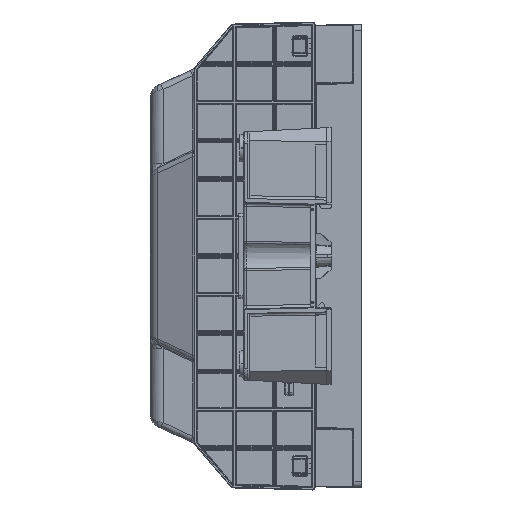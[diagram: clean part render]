
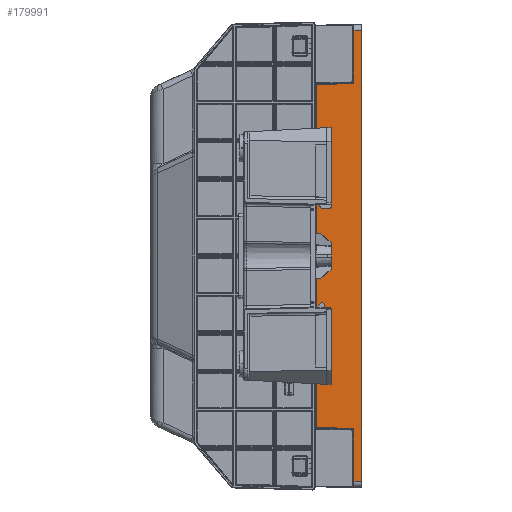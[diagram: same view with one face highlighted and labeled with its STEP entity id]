
A CAD part, left-side view. The second image highlights one B-rep face of the part: STEP entity #179991.
In plain terms, the highlighted planar face has unit normal (-1, 0, 0).
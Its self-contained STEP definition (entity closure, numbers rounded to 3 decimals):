
#6059 = VERTEX_POINT ( 'NONE', #66082 ) ;
#9576 = ORIENTED_EDGE ( 'NONE', *, *, #131273, .T. ) ;
#9785 = VERTEX_POINT ( 'NONE', #202338 ) ;
#11908 = EDGE_CURVE ( 'NONE', #25575, #171592, #144150, .T. ) ;
#11999 = CARTESIAN_POINT ( 'NONE',  ( -108., -31.008, -59.178 ) ) ;
#14390 = LINE ( 'NONE', #11999, #182539 ) ;
#20358 = CARTESIAN_POINT ( 'NONE',  ( -108., -27.835, 59.095 ) ) ;
#23636 = CARTESIAN_POINT ( 'NONE',  ( -108., -28.322, -59.308 ) ) ;
#25575 = VERTEX_POINT ( 'NONE', #174573 ) ;
#28171 = VECTOR ( 'NONE', #122963, 1000. ) ;
#32613 = DIRECTION ( 'NONE',  ( 0., 1., -0.026 ) ) ;
#32677 = VERTEX_POINT ( 'NONE', #39344 ) ;
#36478 = EDGE_CURVE ( 'NONE', #99847, #90356, #83679, .T. ) ;
#39344 = CARTESIAN_POINT ( 'NONE',  ( -108., -28.322, -59.595 ) ) ;
#40225 = CARTESIAN_POINT ( 'NONE',  ( -108., -28.322, -59.5 ) ) ;
#43976 = FACE_OUTER_BOUND ( 'NONE', #232585, .T. ) ;
#51505 = LINE ( 'NONE', #141478, #101246 ) ;
#55694 = ORIENTED_EDGE ( 'NONE', *, *, #36478, .T. ) ;
#60491 = VECTOR ( 'NONE', #144416, 1000. ) ;
#60839 = CARTESIAN_POINT ( 'NONE',  ( -108., -28.322, -59.595 ) ) ;
#65683 = CARTESIAN_POINT ( 'NONE',  ( -108., -28.322, 77.334 ) ) ;
#66082 = CARTESIAN_POINT ( 'NONE',  ( -108., -31., -77.404 ) ) ;
#83679 = LINE ( 'NONE', #212175, #161583 ) ;
#87452 = DIRECTION ( 'NONE',  ( 0., 0., 1. ) ) ;
#88824 = CARTESIAN_POINT ( 'NONE',  ( -108., -28.322, 59.308 ) ) ;
#90356 = VERTEX_POINT ( 'NONE', #138037 ) ;
#91804 = LINE ( 'NONE', #162667, #196877 ) ;
#94000 = AXIS2_PLACEMENT_3D ( 'NONE', #204890, #96776, #208404 ) ;
#96776 = DIRECTION ( 'NONE',  ( -1., 0., 0. ) ) ;
#96813 = CARTESIAN_POINT ( 'NONE',  ( -108., -28.122, -59.102 ) ) ;
#97794 = EDGE_CURVE ( 'NONE', #90356, #156946, #14390, .T. ) ;
#98883 = LINE ( 'NONE', #40225, #203600 ) ;
#99070 = EDGE_CURVE ( 'NONE', #32677, #156946, #107638, .T. ) ;
#99847 = VERTEX_POINT ( 'NONE', #108941 ) ;
#101246 = VECTOR ( 'NONE', #87452, 1000. ) ;
#107638 =( BOUNDED_CURVE ( )  B_SPLINE_CURVE ( 3, ( #60839, #23636, #96813, #207261 ),
 .UNSPECIFIED., .F., .T. ) 
 B_SPLINE_CURVE_WITH_KNOTS ( ( 4, 4 ),
 ( 2.37, 3.914 ),
 .UNSPECIFIED. ) 
 CURVE ( )  GEOMETRIC_REPRESENTATION_ITEM ( )  RATIONAL_B_SPLINE_CURVE ( ( 1., 0.811, 0.811, 1. ) ) 
 REPRESENTATION_ITEM ( '' )  );
#108941 = CARTESIAN_POINT ( 'NONE',  ( -108., -15.322, 58.767 ) ) ;
#113585 = CARTESIAN_POINT ( 'NONE',  ( -108., -27.835, -59.095 ) ) ;
#122963 = DIRECTION ( 'NONE',  ( 0., 0., -1. ) ) ;
#125220 = LINE ( 'NONE', #146763, #60491 ) ;
#126541 = ORIENTED_EDGE ( 'NONE', *, *, #99070, .F. ) ;
#130008 = ORIENTED_EDGE ( 'NONE', *, *, #160635, .T. ) ;
#131273 = EDGE_CURVE ( 'NONE', #176664, #6059, #91804, .T. ) ;
#138037 = CARTESIAN_POINT ( 'NONE',  ( -108., -15.322, -58.767 ) ) ;
#138613 = CARTESIAN_POINT ( 'NONE',  ( -108., -28.322, -77.328 ) ) ;
#141003 = LINE ( 'NONE', #138613, #28171 ) ;
#141478 = CARTESIAN_POINT ( 'NONE',  ( -108., -31., -59.5 ) ) ;
#144150 = LINE ( 'NONE', #183735, #150739 ) ;
#144416 = DIRECTION ( 'NONE',  ( 0., 1., -0.026 ) ) ;
#146763 = CARTESIAN_POINT ( 'NONE',  ( -108., -27.894, 59.096 ) ) ;
#149241 = EDGE_CURVE ( 'NONE', #9785, #99847, #125220, .T. ) ;
#150545 = DIRECTION ( 'NONE',  ( 0., 0., -1. ) ) ;
#150739 = VECTOR ( 'NONE', #32613, 1000. ) ;
#151971 = PLANE ( 'NONE',  #94000 ) ;
#154446 = CARTESIAN_POINT ( 'NONE',  ( -108., -28.322, 59.595 ) ) ;
#155692 = DIRECTION ( 'NONE',  ( 0., 0., -1. ) ) ;
#156946 = VERTEX_POINT ( 'NONE', #113585 ) ;
#159746 = ORIENTED_EDGE ( 'NONE', *, *, #179274, .F. ) ;
#160635 = EDGE_CURVE ( 'NONE', #6059, #25575, #51505, .T. ) ;
#161583 = VECTOR ( 'NONE', #155692, 1000. ) ;
#161953 = DIRECTION ( 'NONE',  ( 0., -1., -0.026 ) ) ;
#162022 = CARTESIAN_POINT ( 'NONE',  ( -108., -28.322, 59.595 ) ) ;
#162667 = CARTESIAN_POINT ( 'NONE',  ( -108., -30.531, -77.392 ) ) ;
#171592 = VERTEX_POINT ( 'NONE', #65683 ) ;
#174573 = CARTESIAN_POINT ( 'NONE',  ( -108., -31., 77.404 ) ) ;
#176664 = VERTEX_POINT ( 'NONE', #217533 ) ;
#179274 = EDGE_CURVE ( 'NONE', #9785, #217274, #230625, .T. ) ;
#179991 = ADVANCED_FACE ( 'NONE', ( #43976 ), #151971, .T. ) ;
#182539 = VECTOR ( 'NONE', #161953, 1000. ) ;
#183735 = CARTESIAN_POINT ( 'NONE',  ( -108., -27.417, 77.31 ) ) ;
#184244 = DIRECTION ( 'NONE',  ( 0., -1., -0.026 ) ) ;
#185989 = CARTESIAN_POINT ( 'NONE',  ( -108., -28.122, 59.102 ) ) ;
#187182 = EDGE_CURVE ( 'NONE', #171592, #217274, #98883, .T. ) ;
#194759 = ORIENTED_EDGE ( 'NONE', *, *, #207757, .T. ) ;
#196877 = VECTOR ( 'NONE', #184244, 1000. ) ;
#198955 = ORIENTED_EDGE ( 'NONE', *, *, #149241, .T. ) ;
#201535 = ORIENTED_EDGE ( 'NONE', *, *, #11908, .T. ) ;
#202338 = CARTESIAN_POINT ( 'NONE',  ( -108., -27.835, 59.095 ) ) ;
#203600 = VECTOR ( 'NONE', #150545, 1000. ) ;
#204890 = CARTESIAN_POINT ( 'NONE',  ( -108., -31., -59.5 ) ) ;
#207261 = CARTESIAN_POINT ( 'NONE',  ( -108., -27.835, -59.095 ) ) ;
#207757 = EDGE_CURVE ( 'NONE', #32677, #176664, #141003, .T. ) ;
#208404 = DIRECTION ( 'NONE',  ( 0., 0., 1. ) ) ;
#209447 = ORIENTED_EDGE ( 'NONE', *, *, #187182, .T. ) ;
#212175 = CARTESIAN_POINT ( 'NONE',  ( -108., -15.322, -59.004 ) ) ;
#217274 = VERTEX_POINT ( 'NONE', #154446 ) ;
#217533 = CARTESIAN_POINT ( 'NONE',  ( -108., -28.322, -77.334 ) ) ;
#230625 =( BOUNDED_CURVE ( )  B_SPLINE_CURVE ( 3, ( #20358, #185989, #88824, #162022 ),
 .UNSPECIFIED., .F., .T. ) 
 B_SPLINE_CURVE_WITH_KNOTS ( ( 4, 4 ),
 ( 2.37, 3.914 ),
 .UNSPECIFIED. ) 
 CURVE ( )  GEOMETRIC_REPRESENTATION_ITEM ( )  RATIONAL_B_SPLINE_CURVE ( ( 1., 0.811, 0.811, 1. ) ) 
 REPRESENTATION_ITEM ( '' )  );
#232005 = ORIENTED_EDGE ( 'NONE', *, *, #97794, .T. ) ;
#232585 = EDGE_LOOP ( 'NONE', ( #126541, #194759, #9576, #130008, #201535, #209447, #159746, #198955, #55694, #232005 ) ) ;
